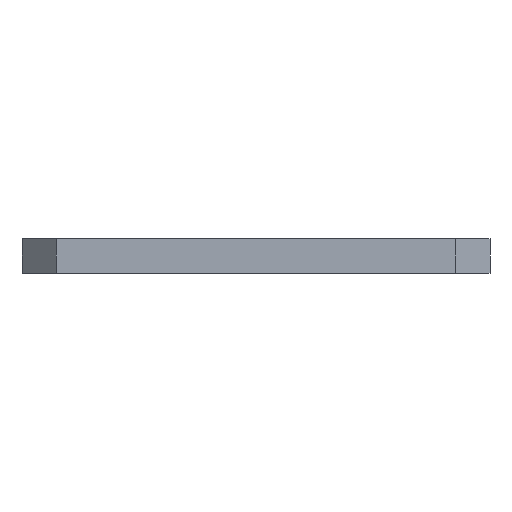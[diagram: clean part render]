
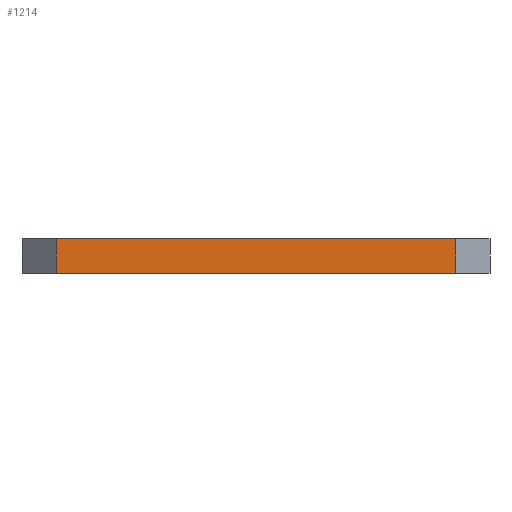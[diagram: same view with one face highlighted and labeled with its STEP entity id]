
A CAD part, left-side view. The second image highlights one B-rep face of the part: STEP entity #1214.
In plain terms, the highlighted planar face has unit normal (-1, 0, 0).
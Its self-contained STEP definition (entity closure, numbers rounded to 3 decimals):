
#1008=CARTESIAN_POINT('',(-27.5,-23.5,0.0));
#1009=VERTEX_POINT('',#1008);
#1016=CARTESIAN_POINT('',(-27.5,23.5,0.0));
#1017=VERTEX_POINT('',#1016);
#1018=CARTESIAN_POINT('',(-27.5,-23.5,0.0));
#1019=DIRECTION('',(0.0,1.0,0.0));
#1020=VECTOR('',#1019,47.0);
#1021=LINE('',#1018,#1020);
#1022=EDGE_CURVE('',#1009,#1017,#1021,.T.);
#1100=CARTESIAN_POINT('',(-27.5,23.5,4.0));
#1101=VERTEX_POINT('',#1100);
#1117=CARTESIAN_POINT('',(-27.5,23.5,0.0));
#1118=DIRECTION('',(0.0,0.0,1.0));
#1119=VECTOR('',#1118,4.0);
#1120=LINE('',#1117,#1119);
#1121=EDGE_CURVE('',#1017,#1101,#1120,.T.);
#1174=CARTESIAN_POINT('',(-27.5,-23.5,4.0));
#1175=VERTEX_POINT('',#1174);
#1182=CARTESIAN_POINT('',(-27.5,-23.5,4.0));
#1183=DIRECTION('',(0.0,0.0,-1.0));
#1184=VECTOR('',#1183,4.0);
#1185=LINE('',#1182,#1184);
#1186=EDGE_CURVE('',#1175,#1009,#1185,.T.);
#1198=CARTESIAN_POINT('',(-27.5,-27.5,0.0));
#1199=DIRECTION('',(-1.0,0.0,0.0));
#1200=DIRECTION('',(0.0,0.0,1.0));
#1201=AXIS2_PLACEMENT_3D('',#1198,#1199,#1200);
#1202=PLANE('',#1201);
#1203=ORIENTED_EDGE('',*,*,#1121,.F.);
#1204=ORIENTED_EDGE('',*,*,#1022,.F.);
#1205=ORIENTED_EDGE('',*,*,#1186,.F.);
#1206=CARTESIAN_POINT('',(-27.5,-23.5,4.0));
#1207=DIRECTION('',(0.0,1.0,0.0));
#1208=VECTOR('',#1207,47.0);
#1209=LINE('',#1206,#1208);
#1210=EDGE_CURVE('',#1175,#1101,#1209,.T.);
#1211=ORIENTED_EDGE('',*,*,#1210,.T.);
#1212=EDGE_LOOP('',(#1203,#1204,#1205,#1211));
#1213=FACE_OUTER_BOUND('',#1212,.T.);
#1214=ADVANCED_FACE('',(#1213),#1202,.T.);
